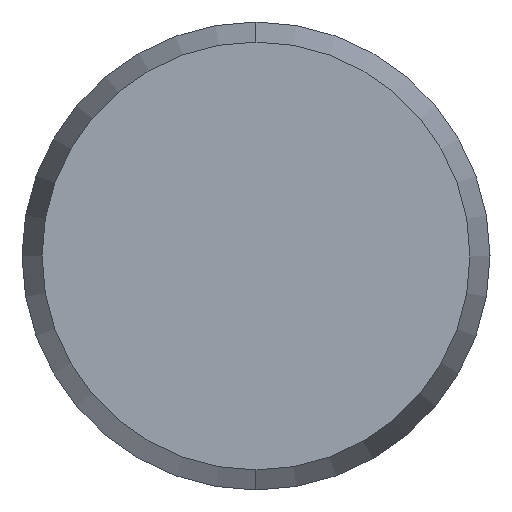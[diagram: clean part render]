
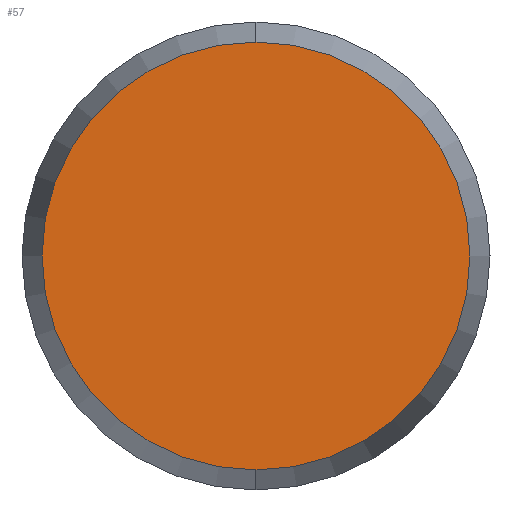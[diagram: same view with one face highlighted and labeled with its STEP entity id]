
A CAD part, left-side view. The second image highlights one B-rep face of the part: STEP entity #57.
In plain terms, the highlighted planar face has unit normal (-1, 0, 0).
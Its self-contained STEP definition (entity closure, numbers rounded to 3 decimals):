
#45 = EDGE_CURVE ( 'NONE', #161, #160, #173, .T. ) ;
#57 = ADVANCED_FACE ( 'NONE', ( #255 ), #254, .F. ) ;
#58 = EDGE_LOOP ( 'NONE', ( #59, #60 ) ) ;
#59 = ORIENTED_EDGE ( 'NONE', *, *, #121, .F. ) ;
#60 = ORIENTED_EDGE ( 'NONE', *, *, #45, .F. ) ;
#109 = CARTESIAN_POINT ( 'NONE',  ( -20., 0., -2.286 ) ) ;
#110 = CARTESIAN_POINT ( 'NONE',  ( -20., 0., 2.286 ) ) ;
#121 = EDGE_CURVE ( 'NONE', #160, #161, #186, .T. ) ;
#160 = VERTEX_POINT ( 'NONE', #110 ) ;
#161 = VERTEX_POINT ( 'NONE', #109 ) ;
#172 = CARTESIAN_POINT ( 'NONE',  ( -20., 0., 0. ) ) ;
#173 = CIRCLE ( 'NONE', #270, 2.286 ) ;
#179 = DIRECTION ( 'NONE',  ( 0., 0., -1. ) ) ;
#180 = DIRECTION ( 'NONE',  ( 1., 0., 0. ) ) ;
#181 = CARTESIAN_POINT ( 'NONE',  ( -20., 0., 0. ) ) ;
#182 = AXIS2_PLACEMENT_3D ( 'NONE', #181, #180, #179 ) ;
#186 = CIRCLE ( 'NONE', #182, 2.286 ) ;
#245 = DIRECTION ( 'NONE',  ( 0., 0., -1. ) ) ;
#246 = DIRECTION ( 'NONE',  ( 1., 0., 0. ) ) ;
#248 = CARTESIAN_POINT ( 'NONE',  ( -20., 0., 0. ) ) ;
#249 = AXIS2_PLACEMENT_3D ( 'NONE', #248, #246, #245 ) ;
#254 = PLANE ( 'NONE',  #249 ) ;
#255 = FACE_OUTER_BOUND ( 'NONE', #58, .T. ) ;
#268 = DIRECTION ( 'NONE',  ( 0., 0., -1. ) ) ;
#269 = DIRECTION ( 'NONE',  ( 1., 0., 0. ) ) ;
#270 = AXIS2_PLACEMENT_3D ( 'NONE', #172, #269, #268 ) ;
